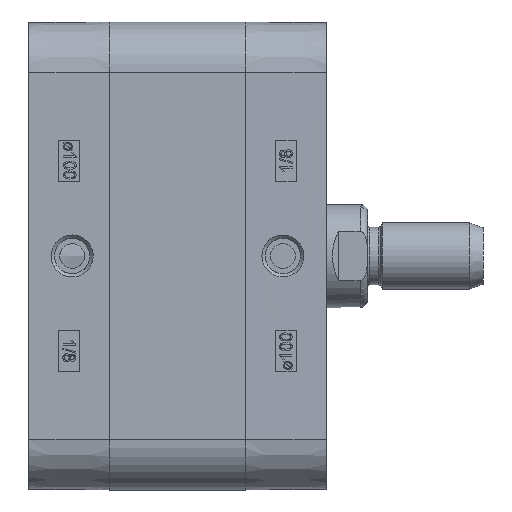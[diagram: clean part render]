
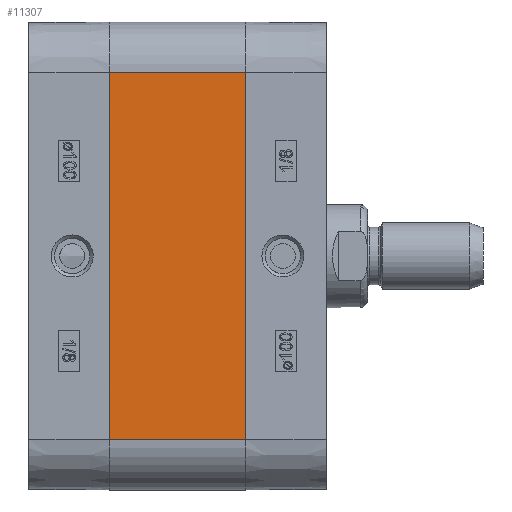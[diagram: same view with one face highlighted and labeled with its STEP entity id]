
A CAD part, left-side view. The second image highlights one B-rep face of the part: STEP entity #11307.
In plain terms, the highlighted planar face has unit normal (-1, 0, 0).
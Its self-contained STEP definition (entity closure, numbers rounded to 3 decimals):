
#5672=CARTESIAN_POINT('',(-56.65,-33.0,44.4));
#5673=VERTEX_POINT('',#5672);
#5680=CARTESIAN_POINT('',(-56.65,-33.0,-44.4));
#5681=VERTEX_POINT('',#5680);
#5682=CARTESIAN_POINT('',(-56.65,-33.0,-44.4));
#5683=DIRECTION('',(0.0,0.0,1.0));
#5684=VECTOR('',#5683,88.8);
#5685=LINE('',#5682,#5684);
#5686=EDGE_CURVE('',#5681,#5673,#5685,.T.);
#11265=CARTESIAN_POINT('',(-56.65,0.0,-44.4));
#11266=VERTEX_POINT('',#11265);
#11267=CARTESIAN_POINT('',(-56.65,0.0,-44.4));
#11268=DIRECTION('',(0.0,-1.0,0.0));
#11269=VECTOR('',#11268,33.0);
#11270=LINE('',#11267,#11269);
#11271=EDGE_CURVE('',#11266,#5681,#11270,.T.);
#11284=CARTESIAN_POINT('',(-56.65,0.0,-44.4));
#11285=DIRECTION('',(-1.0,0.0,0.0));
#11286=DIRECTION('',(0.0,0.0,1.0));
#11287=AXIS2_PLACEMENT_3D('',#11284,#11285,#11286);
#11288=PLANE('',#11287);
#11289=ORIENTED_EDGE('',*,*,#5686,.T.);
#11290=CARTESIAN_POINT('',(-56.65,0.0,44.4));
#11291=VERTEX_POINT('',#11290);
#11292=CARTESIAN_POINT('',(-56.65,0.0,44.4));
#11293=DIRECTION('',(0.0,-1.0,0.0));
#11294=VECTOR('',#11293,33.0);
#11295=LINE('',#11292,#11294);
#11296=EDGE_CURVE('',#11291,#5673,#11295,.T.);
#11297=ORIENTED_EDGE('',*,*,#11296,.F.);
#11298=CARTESIAN_POINT('',(-56.65,0.0,-44.4));
#11299=DIRECTION('',(0.0,0.0,1.0));
#11300=VECTOR('',#11299,88.8);
#11301=LINE('',#11298,#11300);
#11302=EDGE_CURVE('',#11266,#11291,#11301,.T.);
#11303=ORIENTED_EDGE('',*,*,#11302,.F.);
#11304=ORIENTED_EDGE('',*,*,#11271,.T.);
#11305=EDGE_LOOP('',(#11289,#11297,#11303,#11304));
#11306=FACE_OUTER_BOUND('',#11305,.T.);
#11307=ADVANCED_FACE('',(#11306),#11288,.T.);
